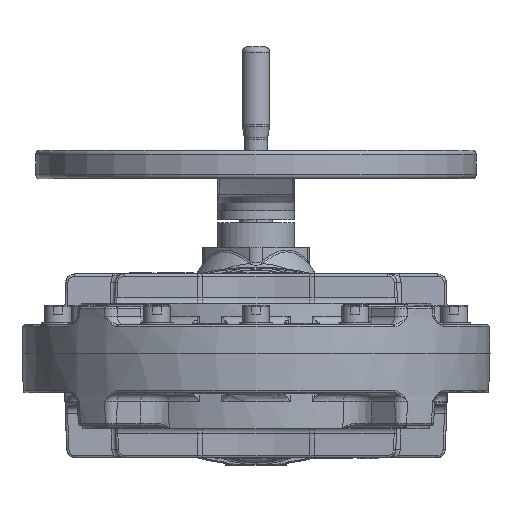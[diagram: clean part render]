
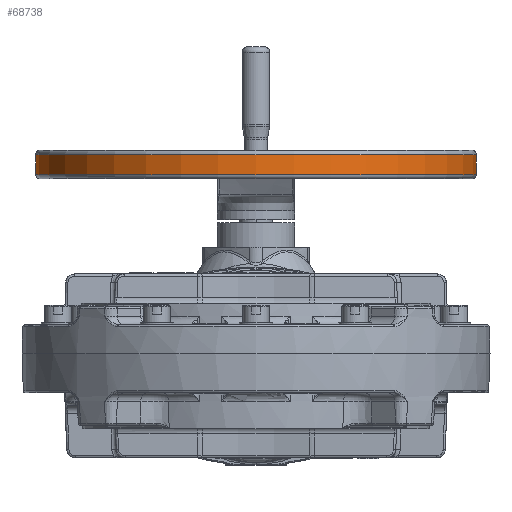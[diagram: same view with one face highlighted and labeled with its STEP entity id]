
A CAD part, front view. The second image highlights one B-rep face of the part: STEP entity #68738.
In plain terms, the highlighted cylindrical face has radius 200 mm (diameter 400 mm), a partial arc.
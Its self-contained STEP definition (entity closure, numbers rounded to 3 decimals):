
#394 = LINE ( 'NONE', #142830, #30430 ) ;
#4628 = EDGE_LOOP ( 'NONE', ( #140561, #138933, #68534, #129078 ) ) ;
#6750 = DIRECTION ( 'NONE',  ( -1., 0., 0. ) ) ;
#11943 = CARTESIAN_POINT ( 'NONE',  ( 0., 857., 162.33 ) ) ;
#12895 = EDGE_CURVE ( 'NONE', #74029, #24261, #60505, .T. ) ;
#18889 = DIRECTION ( 'NONE',  ( 0., 0., -1. ) ) ;
#20689 = LINE ( 'NONE', #138150, #80544 ) ;
#23266 = DIRECTION ( 'NONE',  ( -1., 0., 0. ) ) ;
#24261 = VERTEX_POINT ( 'NONE', #124243 ) ;
#24964 = CARTESIAN_POINT ( 'NONE',  ( -200., 857., 162.33 ) ) ;
#30430 = VECTOR ( 'NONE', #18889, 1000. ) ;
#38901 = AXIS2_PLACEMENT_3D ( 'NONE', #11943, #90697, #23266 ) ;
#43195 = DIRECTION ( 'NONE',  ( 0., 0., -1. ) ) ;
#43228 = CARTESIAN_POINT ( 'NONE',  ( 200., 857., 162.33 ) ) ;
#47031 = CYLINDRICAL_SURFACE ( 'NONE', #97573, 200. ) ;
#60505 = CIRCLE ( 'NONE', #76036, 200. ) ;
#62298 = VERTEX_POINT ( 'NONE', #24964 ) ;
#68534 = ORIENTED_EDGE ( 'NONE', *, *, #138627, .T. ) ;
#68738 = ADVANCED_FACE ( 'NONE', ( #117415 ), #47031, .T. ) ;
#70788 = DIRECTION ( 'NONE',  ( 0., 0., -1. ) ) ;
#74029 = VERTEX_POINT ( 'NONE', #91547 ) ;
#74207 = DIRECTION ( 'NONE',  ( 0., 0., -1. ) ) ;
#76036 = AXIS2_PLACEMENT_3D ( 'NONE', #141570, #74207, #6750 ) ;
#76072 = EDGE_CURVE ( 'NONE', #74029, #80554, #20689, .T. ) ;
#80544 = VECTOR ( 'NONE', #70788, 1000. ) ;
#80554 = VERTEX_POINT ( 'NONE', #43228 ) ;
#90697 = DIRECTION ( 'NONE',  ( 0., 0., -1. ) ) ;
#91547 = CARTESIAN_POINT ( 'NONE',  ( 200., 857., 180.33 ) ) ;
#94535 = CIRCLE ( 'NONE', #38901, 200. ) ;
#97573 = AXIS2_PLACEMENT_3D ( 'NONE', #110515, #43195, #99740 ) ;
#99740 = DIRECTION ( 'NONE',  ( -1., 0., 0. ) ) ;
#101051 = EDGE_CURVE ( 'NONE', #80554, #62298, #94535, .T. ) ;
#110515 = CARTESIAN_POINT ( 'NONE',  ( 0., 857., 91.385 ) ) ;
#117415 = FACE_OUTER_BOUND ( 'NONE', #4628, .T. ) ;
#124243 = CARTESIAN_POINT ( 'NONE',  ( -200., 857., 180.33 ) ) ;
#129078 = ORIENTED_EDGE ( 'NONE', *, *, #101051, .F. ) ;
#138150 = CARTESIAN_POINT ( 'NONE',  ( 200., 857., 91.385 ) ) ;
#138627 = EDGE_CURVE ( 'NONE', #24261, #62298, #394, .T. ) ;
#138933 = ORIENTED_EDGE ( 'NONE', *, *, #12895, .T. ) ;
#140561 = ORIENTED_EDGE ( 'NONE', *, *, #76072, .F. ) ;
#141570 = CARTESIAN_POINT ( 'NONE',  ( 0., 857., 180.33 ) ) ;
#142830 = CARTESIAN_POINT ( 'NONE',  ( -200., 857., 91.385 ) ) ;
